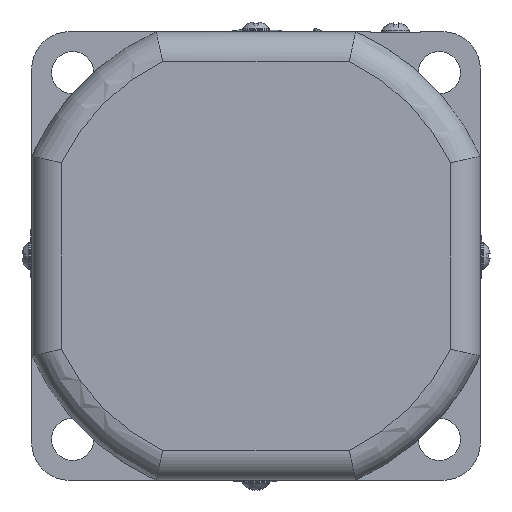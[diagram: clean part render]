
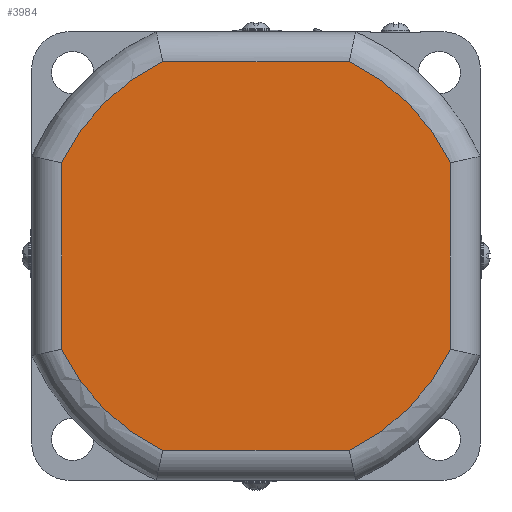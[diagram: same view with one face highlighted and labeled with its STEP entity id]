
A CAD part, left-side view. The second image highlights one B-rep face of the part: STEP entity #3984.
In plain terms, the highlighted planar face has unit normal (-1, 0, 0).
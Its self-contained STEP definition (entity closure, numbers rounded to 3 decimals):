
#228=LINE('',#6317,#528);
#231=LINE('',#6337,#531);
#232=LINE('',#6390,#532);
#233=LINE('',#6407,#533);
#528=VECTOR('',#4867,37.393);
#531=VECTOR('',#4872,37.393);
#532=VECTOR('',#4887,37.393);
#533=VECTOR('',#4890,37.393);
#957=FACE_OUTER_BOUND('',#1219,.T.);
#1219=EDGE_LOOP('',(#2828,#2829,#2830,#2831,#2832,#2833,#2834,#2835));
#1454=CIRCLE('',#4262,43.25);
#1455=CIRCLE('',#4266,43.25);
#1458=CIRCLE('',#4270,43.25);
#1459=CIRCLE('',#4274,43.25);
#1690=VERTEX_POINT('',#6267);
#1692=VERTEX_POINT('',#6284);
#1694=VERTEX_POINT('',#6302);
#1696=VERTEX_POINT('',#6321);
#1697=VERTEX_POINT('',#6339);
#1698=VERTEX_POINT('',#6357);
#1699=VERTEX_POINT('',#6375);
#1700=VERTEX_POINT('',#6392);
#2113=EDGE_CURVE('',#1692,#1690,#1454,.T.);
#2115=EDGE_CURVE('',#1694,#1692,#228,.T.);
#2119=EDGE_CURVE('',#1690,#1696,#231,.T.);
#2121=EDGE_CURVE('',#1697,#1694,#1455,.T.);
#2125=EDGE_CURVE('',#1696,#1698,#1458,.T.);
#2127=EDGE_CURVE('',#1699,#1697,#232,.T.);
#2129=EDGE_CURVE('',#1698,#1700,#233,.T.);
#2130=EDGE_CURVE('',#1700,#1699,#1459,.T.);
#2828=ORIENTED_EDGE('',*,*,#2129,.F.);
#2829=ORIENTED_EDGE('',*,*,#2125,.F.);
#2830=ORIENTED_EDGE('',*,*,#2119,.F.);
#2831=ORIENTED_EDGE('',*,*,#2113,.F.);
#2832=ORIENTED_EDGE('',*,*,#2115,.F.);
#2833=ORIENTED_EDGE('',*,*,#2121,.F.);
#2834=ORIENTED_EDGE('',*,*,#2127,.F.);
#2835=ORIENTED_EDGE('',*,*,#2130,.F.);
#3572=PLANE('',#4276);
#3984=ADVANCED_FACE('',(#957),#3572,.F.);
#4262=AXIS2_PLACEMENT_3D('',#6299,#4863,#4864);
#4266=AXIS2_PLACEMENT_3D('',#6354,#4875,#4876);
#4270=AXIS2_PLACEMENT_3D('',#6373,#4883,#4884);
#4274=AXIS2_PLACEMENT_3D('',#6409,#4893,#4894);
#4276=AXIS2_PLACEMENT_3D('',#6411,#4897,#4898);
#4863=DIRECTION('center_axis',(1.,0.,0.));
#4864=DIRECTION('ref_axis',(0.,0.707,-0.707));
#4867=DIRECTION('',(0.,1.,0.));
#4872=DIRECTION('',(0.,0.,1.));
#4875=DIRECTION('center_axis',(1.,0.,0.));
#4876=DIRECTION('ref_axis',(0.,-0.707,-0.707));
#4883=DIRECTION('center_axis',(1.,0.,0.));
#4884=DIRECTION('ref_axis',(0.,0.707,0.707));
#4887=DIRECTION('',(0.,0.,-1.));
#4890=DIRECTION('',(0.,-1.,0.));
#4893=DIRECTION('center_axis',(1.,0.,0.));
#4894=DIRECTION('ref_axis',(0.,-0.707,0.707));
#4897=DIRECTION('center_axis',(1.,0.,0.));
#4898=DIRECTION('ref_axis',(0.,1.,0.));
#6267=CARTESIAN_POINT('',(-58.3,39.,-18.697));
#6284=CARTESIAN_POINT('',(-58.3,18.697,-39.));
#6299=CARTESIAN_POINT('Origin',(-58.3,0.,
0.));
#6302=CARTESIAN_POINT('',(-58.3,-18.697,-39.));
#6317=CARTESIAN_POINT('',(-58.3,-18.697,-39.));
#6321=CARTESIAN_POINT('',(-58.3,39.,18.697));
#6337=CARTESIAN_POINT('',(-58.3,39.,-18.697));
#6339=CARTESIAN_POINT('',(-58.3,-39.,-18.697));
#6354=CARTESIAN_POINT('Origin',(-58.3,0.,
0.));
#6357=CARTESIAN_POINT('',(-58.3,18.697,39.));
#6373=CARTESIAN_POINT('Origin',(-58.3,0.,
0.));
#6375=CARTESIAN_POINT('',(-58.3,-39.,18.697));
#6390=CARTESIAN_POINT('',(-58.3,-39.,18.697));
#6392=CARTESIAN_POINT('',(-58.3,-18.697,39.));
#6407=CARTESIAN_POINT('',(-58.3,18.697,39.));
#6409=CARTESIAN_POINT('Origin',(-58.3,0.,
0.));
#6411=CARTESIAN_POINT('Origin',(-58.3,0.,
0.));
